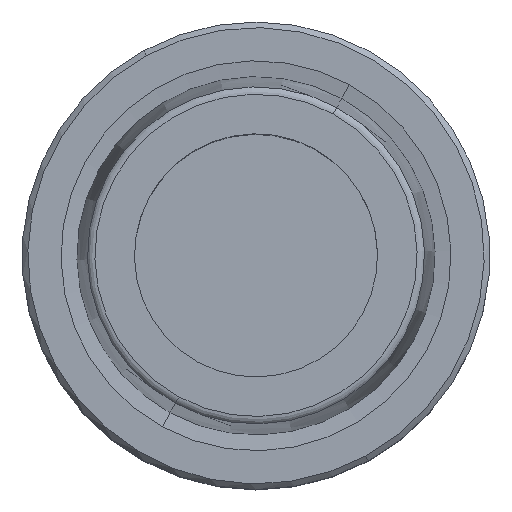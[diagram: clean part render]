
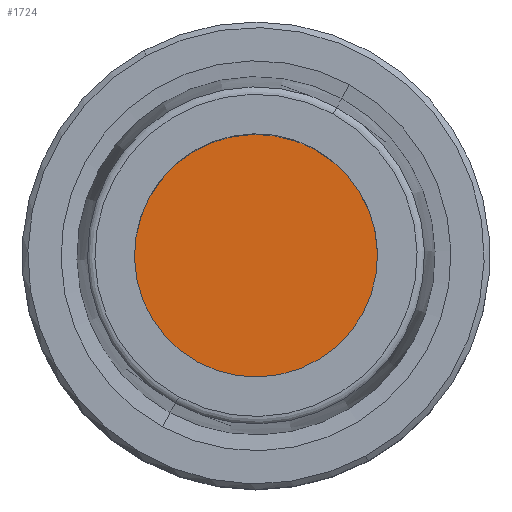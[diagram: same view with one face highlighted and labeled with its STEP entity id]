
A CAD part, top view. The second image highlights one B-rep face of the part: STEP entity #1724.
In plain terms, the highlighted planar face has unit normal (0, 0, 1).
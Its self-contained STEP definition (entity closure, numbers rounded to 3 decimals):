
#1679=AXIS2_PLACEMENT_3D('Circle Axis2P3D',#1677,#1678,$) ;
#1705=AXIS2_PLACEMENT_3D('Circle Axis2P3D',#1703,#1704,$) ;
#1718=AXIS2_PLACEMENT_3D('Plane Axis2P3D',#1715,#1716,#1717) ;
#1677=CARTESIAN_POINT('Axis2P3D Location',(0.,0.,-10.)) ;
#1681=CARTESIAN_POINT('Vertex',(-6.233,-11.409,-10.)) ;
#1683=CARTESIAN_POINT('Vertex',(6.233,11.409,-10.)) ;
#1703=CARTESIAN_POINT('Axis2P3D Location',(0.,0.,-10.)) ;
#1715=CARTESIAN_POINT('Axis2P3D Location',(0.,-11.8,-10.)) ;
#1678=DIRECTION('Axis2P3D Direction',(0.,0.,-1.)) ;
#1704=DIRECTION('Axis2P3D Direction',(0.,0.,-1.)) ;
#1716=DIRECTION('Axis2P3D Direction',(0.,0.,-1.)) ;
#1717=DIRECTION('Axis2P3D XDirection',(-1.,0.,0.)) ;
#1721=ORIENTED_EDGE('',*,*,#1685,.T.) ;
#1722=ORIENTED_EDGE('',*,*,#1707,.T.) ;
#1724=ADVANCED_FACE('NOCUT',(#1723),#1719,.F.) ;
#1680=CIRCLE('generated circle',#1679,13.) ;
#1706=CIRCLE('generated circle',#1705,13.) ;
#1685=EDGE_CURVE('',#1682,#1684,#1680,.F.) ;
#1707=EDGE_CURVE('',#1684,#1682,#1706,.F.) ;
#1720=EDGE_LOOP('',(#1721,#1722)) ;
#1723=FACE_OUTER_BOUND('',#1720,.T.) ;
#1719=PLANE('',#1718) ;
#1682=VERTEX_POINT('',#1681) ;
#1684=VERTEX_POINT('',#1683) ;
